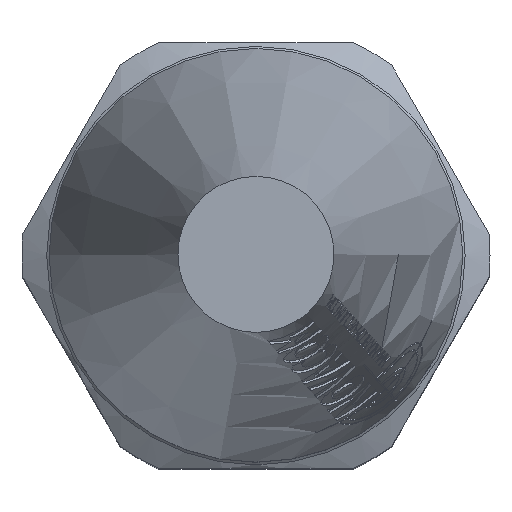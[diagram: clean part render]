
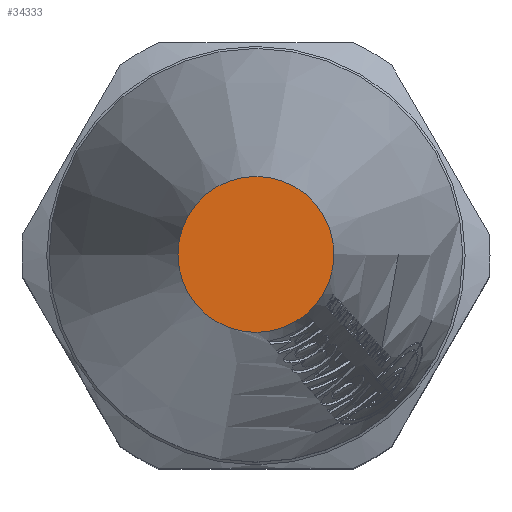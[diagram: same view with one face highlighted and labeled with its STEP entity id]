
A CAD part, top view. The second image highlights one B-rep face of the part: STEP entity #34333.
In plain terms, the highlighted planar face has unit normal (0, 0, 1).
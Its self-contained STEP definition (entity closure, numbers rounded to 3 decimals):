
#3003 = VERTEX_POINT ( 'NONE', #42736 ) ;
#4468 = EDGE_CURVE ( 'NONE', #3003, #3003, #33764, .T. ) ;
#6881 = AXIS2_PLACEMENT_3D ( 'NONE', #14517, #34642, #40512 ) ;
#10044 = EDGE_LOOP ( 'NONE', ( #28984 ) ) ;
#12056 = CARTESIAN_POINT ( 'NONE',  ( 0., 0., 31.05 ) ) ;
#14517 = CARTESIAN_POINT ( 'NONE',  ( 0., 0., 31.05 ) ) ;
#21215 = FACE_OUTER_BOUND ( 'NONE', #10044, .T. ) ;
#24754 = AXIS2_PLACEMENT_3D ( 'NONE', #12056, #28308, #35219 ) ;
#28308 = DIRECTION ( 'NONE',  ( 0., 0., 1. ) ) ;
#28984 = ORIENTED_EDGE ( 'NONE', *, *, #4468, .T. ) ;
#33764 = CIRCLE ( 'NONE', #24754, 3.3 ) ;
#34333 = ADVANCED_FACE ( 'NONE', ( #21215 ), #34421, .T. ) ;
#34421 = PLANE ( 'NONE',  #6881 ) ;
#34642 = DIRECTION ( 'NONE',  ( 0., 0., 1. ) ) ;
#35219 = DIRECTION ( 'NONE',  ( -1., 0., 0. ) ) ;
#40512 = DIRECTION ( 'NONE',  ( 1., 0., 0. ) ) ;
#42736 = CARTESIAN_POINT ( 'NONE',  ( -3.3, 0., 31.05 ) ) ;
